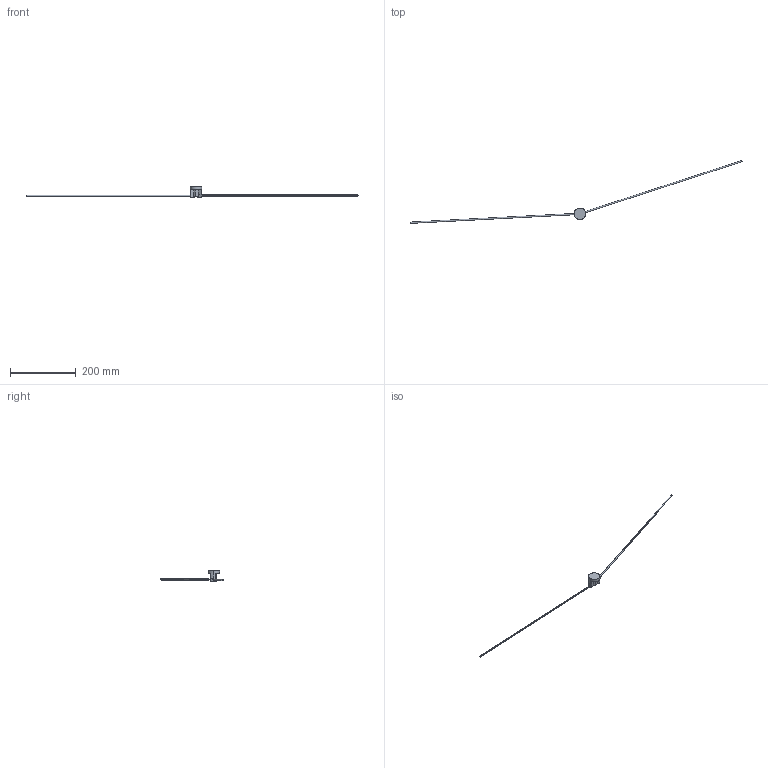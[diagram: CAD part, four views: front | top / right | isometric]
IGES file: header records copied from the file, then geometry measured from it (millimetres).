
Start section: SolidWorks IGES file using analytic representation for surfaces
Global section: file name: C:\Users\Toshiba\Desktop\FU-3PRNA.IGS; native system: SolidWorks 2014; preprocessor: SolidWorks 2014; author: Toshiba; date: 160621.090736; units: metre
Bounding box: 1009.69 x 190.9 x 30.7 mm (x, y, z)
Surface area: 18137.3 mm2 (no closed solid volume)
Topology: 0 solids, 0 shells, 36 faces, 680 edges, 680 vertices
Faces by surface type: bspline 19, revolution 17
